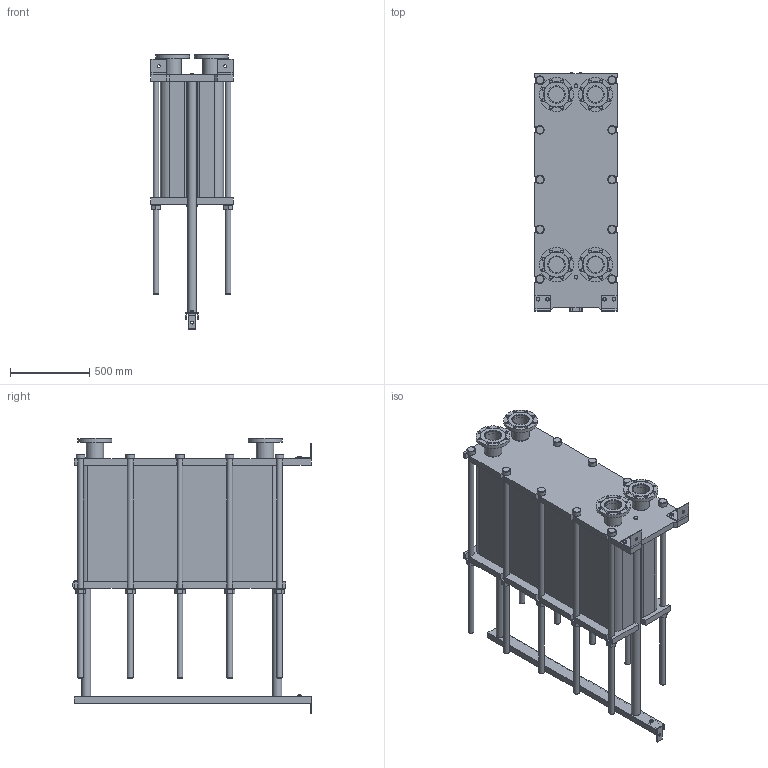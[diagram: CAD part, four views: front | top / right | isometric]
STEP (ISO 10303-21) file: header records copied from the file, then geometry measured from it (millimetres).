
FILE_DESCRIPTION(/* description */ (''),/* implementation_level */ '2;1');
FILE_NAME(/* name */ 'C:\Users\zhuro\Desktop\ENCO\TO\ЭН-04\ЭН-0,5-04-214-1.stp',/* time_stamp */ '2022-06-06T11:04:44+03:00',/* author */ ('zhuro'),/* organization */ (''),/* preprocessor_version */ 'ST-DEVELOPER v18.1',/* originating_system */ 'Autodesk Inventor 2022',/* authorisation */ '');
FILE_SCHEMA (('AUTOMOTIVE_DESIGN { 1 0 10303 214 3 1 1 }'));
Length unit declared in the file: millimetre
Products named in the file (1): ЭН-0,5-04-214-1
Bounding box: 520 x 1510 x 1742 mm (x, y, z)
Volume: 446312555.5 mm3; surface area: 10862132.7 mm2
Topology: 45 solids, 45 shells, 668 faces, 1611 edges, 1048 vertices
Faces by surface type: plane 457, cylinder 166, cone 39, torus 6
Full cylindrical faces by diameter (mm): 8 x4, 10 x2, 16 x8, 18 x35, 36 x25, 40 x2, 42 x1, 45 x4, 54 x10, 57 x2, 60 x10, 68 x2, 100 x4, 110 x8, 215 x4
Entity records: 23607 total; most frequent: CARTESIAN_POINT 7348, DIRECTION 3371, ORIENTED_EDGE 3142, EDGE_CURVE 1571, AXIS2_PLACEMENT_3D 1199, VERTEX_POINT 1044, LINE 973, VECTOR 973
